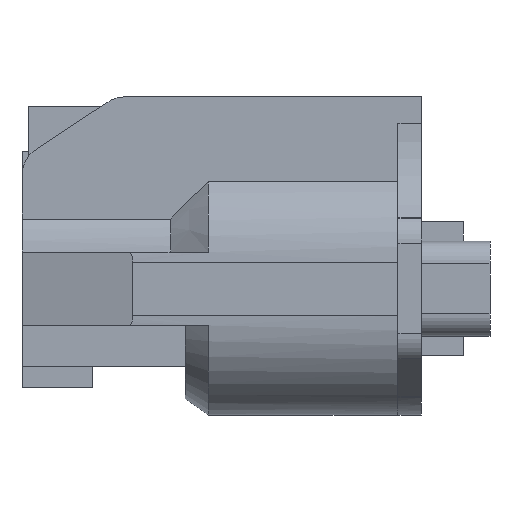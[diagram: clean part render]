
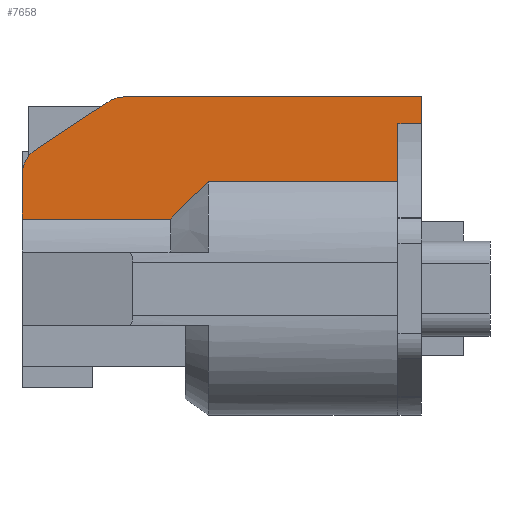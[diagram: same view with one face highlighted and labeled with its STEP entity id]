
A CAD part, front view. The second image highlights one B-rep face of the part: STEP entity #7658.
In plain terms, the highlighted planar face has unit normal (0, -1, 0).
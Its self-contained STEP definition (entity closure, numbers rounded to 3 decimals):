
#7292=AXIS2_PLACEMENT_3D('Circle Axis2P3D',#7290,#7291,$) ;
#7344=AXIS2_PLACEMENT_3D('Circle Axis2P3D',#7342,#7343,$) ;
#7643=AXIS2_PLACEMENT_3D('Plane Axis2P3D',#7640,#7641,#7642) ;
#7290=CARTESIAN_POINT('Axis2P3D Location',(-28.,-8.,7.272)) ;
#7294=CARTESIAN_POINT('Vertex',(-30.,-8.,7.272)) ;
#7296=CARTESIAN_POINT('Vertex',(-29.1,-8.,8.943)) ;
#7317=CARTESIAN_POINT('Line Origine',(-26.8,-8.,10.457)) ;
#7321=CARTESIAN_POINT('Vertex',(-24.501,-8.,11.97)) ;
#7342=CARTESIAN_POINT('Axis2P3D Location',(-23.401,-8.,10.3)) ;
#7346=CARTESIAN_POINT('Vertex',(-23.401,-8.,12.3)) ;
#7367=CARTESIAN_POINT('Line Origine',(-13.9,-8.,12.3)) ;
#7371=CARTESIAN_POINT('Vertex',(-4.4,-8.,12.3)) ;
#7395=CARTESIAN_POINT('Line Origine',(-4.4,-8.,11.432)) ;
#7399=CARTESIAN_POINT('Vertex',(-4.4,-8.,10.565)) ;
#7447=CARTESIAN_POINT('Line Origine',(-5.15,-8.,10.565)) ;
#7451=CARTESIAN_POINT('Vertex',(-5.9,-8.,10.565)) ;
#7467=CARTESIAN_POINT('Line Origine',(-5.9,-8.,8.707)) ;
#7471=CARTESIAN_POINT('Vertex',(-5.9,-8.,6.85)) ;
#7498=CARTESIAN_POINT('Line Origine',(-14.652,-8.,6.85)) ;
#7502=CARTESIAN_POINT('Vertex',(-18.05,-8.,6.85)) ;
#7529=CARTESIAN_POINT('Vertex',(-20.478,-8.,4.466)) ;
#7541=CARTESIAN_POINT('Control Point',(-20.478,-8.,4.466)) ;
#7542=CARTESIAN_POINT('Control Point',(-20.102,-8.,4.913)) ;
#7543=CARTESIAN_POINT('Control Point',(-19.614,-8.,5.429)) ;
#7544=CARTESIAN_POINT('Control Point',(-18.985,-8.,6.036)) ;
#7545=CARTESIAN_POINT('Control Point',(-18.05,-8.,6.85)) ;
#7564=CARTESIAN_POINT('Vertex',(-30.,-8.,4.466)) ;
#7567=CARTESIAN_POINT('Line Origine',(-25.741,-8.,4.466)) ;
#7586=CARTESIAN_POINT('Line Origine',(-30.,-8.,5.869)) ;
#7640=CARTESIAN_POINT('Axis2P3D Location',(-3.9,-8.,12.1)) ;
#7291=DIRECTION('Axis2P3D Direction',(-0.,-1.,0.)) ;
#7318=DIRECTION('Vector Direction',(-0.835,0.,-0.55)) ;
#7343=DIRECTION('Axis2P3D Direction',(0.,-1.,0.)) ;
#7368=DIRECTION('Vector Direction',(1.,0.,0.)) ;
#7396=DIRECTION('Vector Direction',(0.,0.,-1.)) ;
#7448=DIRECTION('Vector Direction',(1.,0.,0.)) ;
#7468=DIRECTION('Vector Direction',(0.,0.,1.)) ;
#7499=DIRECTION('Vector Direction',(-1.,0.,0.)) ;
#7568=DIRECTION('Vector Direction',(-1.,0.,0.)) ;
#7587=DIRECTION('Vector Direction',(0.,0.,-1.)) ;
#7641=DIRECTION('Axis2P3D Direction',(0.,1.,0.)) ;
#7642=DIRECTION('Axis2P3D XDirection',(0.,0.,-1.)) ;
#7319=VECTOR('Line Direction',#7318,1.) ;
#7369=VECTOR('Line Direction',#7368,1.) ;
#7397=VECTOR('Line Direction',#7396,1.) ;
#7449=VECTOR('Line Direction',#7448,1.) ;
#7469=VECTOR('Line Direction',#7468,1.) ;
#7500=VECTOR('Line Direction',#7499,1.) ;
#7569=VECTOR('Line Direction',#7568,1.) ;
#7588=VECTOR('Line Direction',#7587,1.) ;
#7646=ORIENTED_EDGE('',*,*,#7590,.T.) ;
#7647=ORIENTED_EDGE('',*,*,#7571,.F.) ;
#7648=ORIENTED_EDGE('',*,*,#7546,.T.) ;
#7649=ORIENTED_EDGE('',*,*,#7504,.T.) ;
#7650=ORIENTED_EDGE('',*,*,#7473,.T.) ;
#7651=ORIENTED_EDGE('',*,*,#7453,.F.) ;
#7652=ORIENTED_EDGE('',*,*,#7401,.F.) ;
#7653=ORIENTED_EDGE('',*,*,#7373,.F.) ;
#7654=ORIENTED_EDGE('',*,*,#7348,.F.) ;
#7655=ORIENTED_EDGE('',*,*,#7323,.T.) ;
#7656=ORIENTED_EDGE('',*,*,#7298,.F.) ;
#7658=ADVANCED_FACE('OLD CPA',(#7657),#7644,.F.) ;
#7540=B_SPLINE_CURVE_WITH_KNOTS('',4,(#7541,#7542,#7543,#7544,#7545),.UNSPECIFIED.,.F.,.U.,(5,5),(126.097,157.04),.UNSPECIFIED.) ;
#7293=CIRCLE('generated circle',#7292,2.) ;
#7345=CIRCLE('generated circle',#7344,2.) ;
#7298=EDGE_CURVE('',#7295,#7297,#7293,.F.) ;
#7323=EDGE_CURVE('',#7322,#7297,#7320,.T.) ;
#7348=EDGE_CURVE('',#7322,#7347,#7345,.F.) ;
#7373=EDGE_CURVE('',#7347,#7372,#7370,.T.) ;
#7401=EDGE_CURVE('',#7372,#7400,#7398,.T.) ;
#7453=EDGE_CURVE('',#7400,#7452,#7450,.F.) ;
#7473=EDGE_CURVE('',#7472,#7452,#7470,.T.) ;
#7504=EDGE_CURVE('',#7503,#7472,#7501,.F.) ;
#7546=EDGE_CURVE('',#7530,#7503,#7540,.T.) ;
#7571=EDGE_CURVE('',#7530,#7565,#7570,.T.) ;
#7590=EDGE_CURVE('',#7295,#7565,#7589,.T.) ;
#7645=EDGE_LOOP('',(#7646,#7647,#7648,#7649,#7650,#7651,#7652,#7653,#7654,#7655,#7656)) ;
#7657=FACE_OUTER_BOUND('',#7645,.T.) ;
#7320=LINE('Line',#7317,#7319) ;
#7370=LINE('Line',#7367,#7369) ;
#7398=LINE('Line',#7395,#7397) ;
#7450=LINE('Line',#7447,#7449) ;
#7470=LINE('Line',#7467,#7469) ;
#7501=LINE('Line',#7498,#7500) ;
#7570=LINE('Line',#7567,#7569) ;
#7589=LINE('Line',#7586,#7588) ;
#7644=PLANE('',#7643) ;
#7295=VERTEX_POINT('',#7294) ;
#7297=VERTEX_POINT('',#7296) ;
#7322=VERTEX_POINT('',#7321) ;
#7347=VERTEX_POINT('',#7346) ;
#7372=VERTEX_POINT('',#7371) ;
#7400=VERTEX_POINT('',#7399) ;
#7452=VERTEX_POINT('',#7451) ;
#7472=VERTEX_POINT('',#7471) ;
#7503=VERTEX_POINT('',#7502) ;
#7530=VERTEX_POINT('',#7529) ;
#7565=VERTEX_POINT('',#7564) ;
